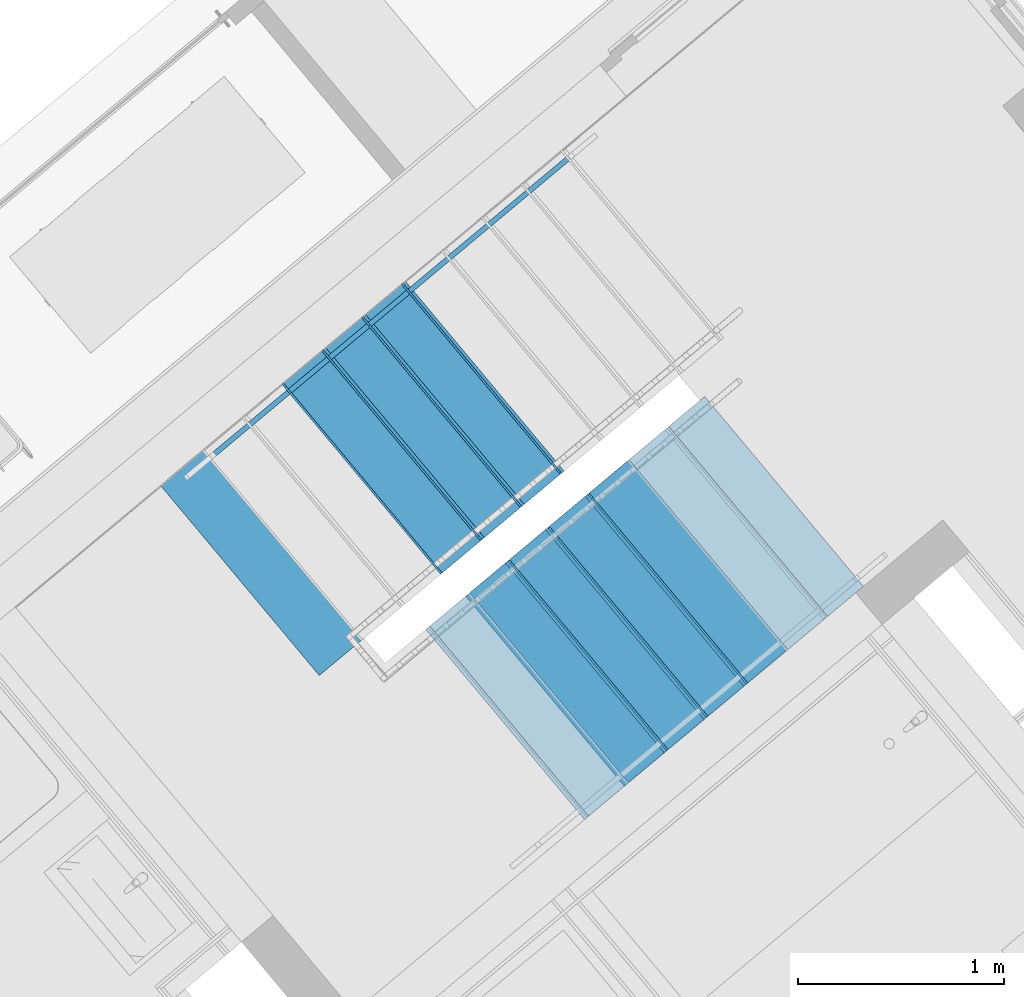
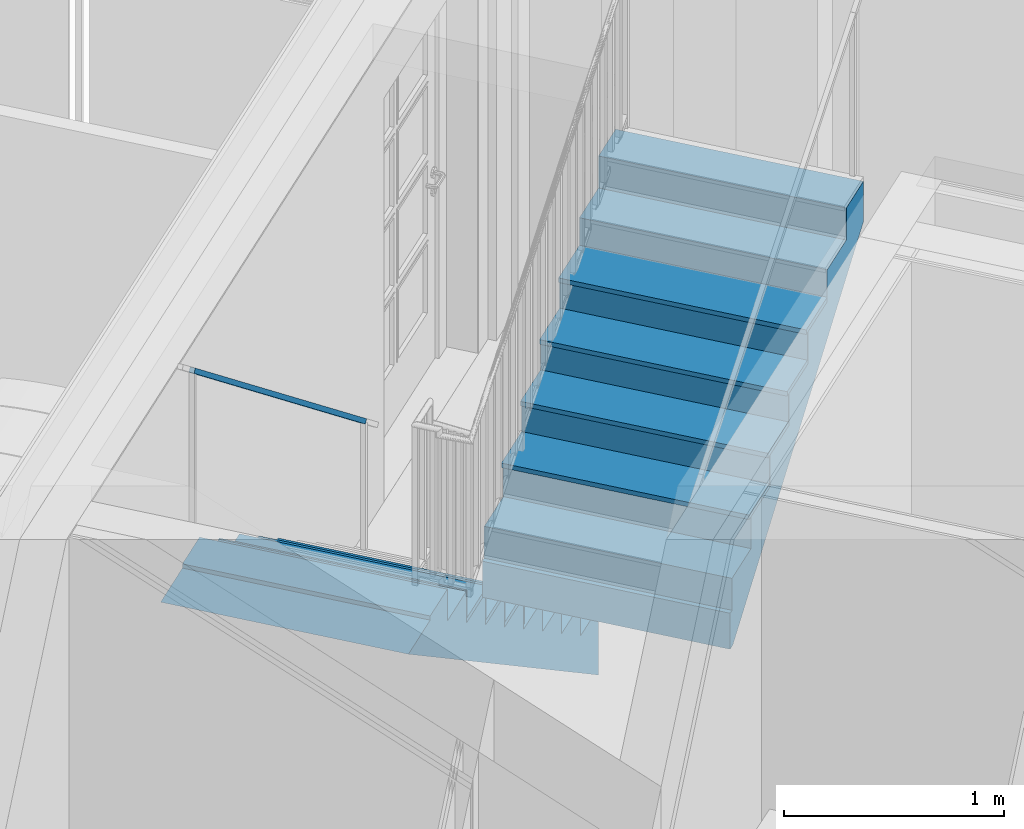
# One storey, part 33 of 67: 17 building element parts, 2 elements without a shape of their own.
"""IFC4 building model written with IfcOpenShell, lengths in metres."""

import ifcopenshell
import ifcopenshell.guid

model = None  # the IFC model being written
_history = None  # IfcOwnerHistory: only IFC2X3 demands one
_inside = {}  # id of a spatial element -> (the spatial element, [elements in it])
_under = {}  # id of a project, library or spatial element -> (it, [spatial elements below it])
_declared = {}  # id of a project -> (the project, [libraries it declares])
_typed = {}  # id of a type object -> (the type object, [elements of that type])
_made_of = {}  # id of a material, layer set ... -> (it, [elements and type objects made of it])


def new_model(schema):
    """Start an empty IFC model of exactly this schema.

    Asked for "IFC4X3", IfcOpenShell would pick the latest addendum, in which some entities
    have other attributes; the version numbers below select the first issue.
    IFC2X3 requires an IfcOwnerHistory on every rooted entity: one is made here for all.
    """
    global model, _history
    if schema == "IFC4X3":
        model = ifcopenshell.file(schema_version=(4, 3, 0, 0))
    else:
        model = ifcopenshell.file(schema=schema)
    _inside.clear()
    _under.clear()
    _declared.clear()
    _typed.clear()
    _made_of.clear()
    _history = None
    if model.schema == "IFC2X3":
        org = make("IfcOrganization", Name="unknown")
        user = make(
            "IfcPersonAndOrganization",
            ThePerson=make("IfcPerson", FamilyName="unknown"),
            TheOrganization=org,
        )
        app = make(
            "IfcApplication",
            ApplicationDeveloper=org,
            Version="unknown",
            ApplicationFullName="unknown",
            ApplicationIdentifier="unknown",
        )
        _history = make(
            "IfcOwnerHistory",
            OwningUser=user,
            OwningApplication=app,
            ChangeAction="ADDED",
            CreationDate=0,
        )
    return model


def make(cls, **values):
    """One entity of the class cls with the attributes given. An attribute that is None is left unset."""
    return model.create_entity(
        cls, **{name: value for name, value in values.items() if value is not None}
    )


def entity(cls, *values):
    """Any entity or typed value of the class cls, its attributes in the order of the schema. None: left unset."""
    e = model.create_entity(cls)
    for i, value in enumerate(values):
        if value is not None:
            e[i] = value
    return e


def rooted(cls, **values):
    """An entity with a GlobalId (a new one), such as an element, a storey or a relation."""
    return make(cls, GlobalId=ifcopenshell.guid.new(), OwnerHistory=_history, **values)


def si_unit(unit_type, name, prefix=None):
    """IfcSIUnit, for example si_unit("LENGTHUNIT", "METRE", prefix="MILLI")."""
    return make("IfcSIUnit", UnitType=unit_type, Prefix=prefix, Name=name)


def converted_unit(unit_type, name, factor, base, dimensions=None, offset=None):
    """IfcConversionBasedUnit, such as the inch: factor (a typed value) times the base unit."""
    return make(
        "IfcConversionBasedUnit"
        if offset is None
        else "IfcConversionBasedUnitWithOffset",
        ConversionOffset=offset,
        Dimensions=None
        if dimensions is None
        else entity("IfcDimensionalExponents", *dimensions),
        UnitType=unit_type,
        Name=name,
        ConversionFactor=make(
            "IfcMeasureWithUnit", ValueComponent=factor, UnitComponent=base
        ),
    )


def derived_unit(unit_type, elements):
    """IfcDerivedUnit: a product of units, each with its exponent."""
    return make(
        "IfcDerivedUnit",
        Elements=[
            make("IfcDerivedUnitElement", Unit=unit, Exponent=power)
            for unit, power in elements
        ],
        UnitType=unit_type,
    )


def assignment(units):
    """IfcUnitAssignment: the units of a project."""
    return None if units is None else make("IfcUnitAssignment", Units=units)


def point(xyz):
    """IfcCartesianPoint."""
    return None if xyz is None else make("IfcCartesianPoint", Coordinates=xyz)


def direction(xyz):
    """IfcDirection."""
    return None if xyz is None else make("IfcDirection", DirectionRatios=xyz)


def frame(location, z_axis=None, x_axis=None):
    """IfcAxis2Placement3D, a coordinate frame: its origin and axes. An axis left out is left unset."""
    return make(
        "IfcAxis2Placement3D",
        Location=point(location),
        Axis=direction(z_axis),
        RefDirection=direction(x_axis),
    )


def origin_with_axes():
    """The frame at (0, 0, 0) with the z axis (0, 0, 1) and the x axis (1, 0, 0) written out."""
    return frame((0.0, 0.0, 0.0), z_axis=(0.0, 0.0, 1.0), x_axis=(1.0, 0.0, 0.0))


def place(relative_to, where):
    """IfcLocalPlacement: puts the frame where relative to a parent placement (None: the world)."""
    return make(
        "IfcLocalPlacement", PlacementRelTo=relative_to, RelativePlacement=where
    )


def context(
    kind, dimensions, precision=None, world=None, true_north=None, identifier=None
):
    """IfcGeometricRepresentationContext, for example the 3D "Model" context."""
    return make(
        "IfcGeometricRepresentationContext",
        ContextIdentifier=identifier,
        ContextType=kind,
        CoordinateSpaceDimension=dimensions,
        Precision=precision,
        WorldCoordinateSystem=world,
        TrueNorth=true_north,
    )


def subcontext(parent, identifier, kind, view, scale=None):
    """IfcGeometricRepresentationSubContext, for example "Body" below "Model"."""
    return make(
        "IfcGeometricRepresentationSubContext",
        ContextIdentifier=identifier,
        ContextType=kind,
        ParentContext=parent,
        TargetScale=scale,
        TargetView=view,
    )


def project(units=None, contexts=None):
    """IfcProject with its units and contexts."""
    return rooted(
        "IfcProject",
        Name="project",
        RepresentationContexts=contexts,
        UnitsInContext=assignment(units),
    )


def spatial(cls, under=None, at=None, **own):
    """A site, building, storey or space (cls), placed at a placement, below another one or the project."""
    s = rooted(cls, ObjectPlacement=at, **own)
    if under is not None:
        _under.setdefault(under.id(), (under, []))[1].append(s)
    return s


def point_list(points):
    """IfcCartesianPointList2D or 3D."""
    cls = (
        "IfcCartesianPointList2D" if len(points[0]) == 2 else "IfcCartesianPointList3D"
    )
    return make(cls, CoordList=points)


def polygons(points, faces, closed=None, point_numbers=None):
    """IfcPolygonalFaceSet: a face is its outer loop, then its inner loops; points numbered from 1."""
    made = []
    for loops in faces:
        if len(loops) == 1:
            made.append(make("IfcIndexedPolygonalFace", CoordIndex=loops[0]))
        else:
            made.append(
                make(
                    "IfcIndexedPolygonalFaceWithVoids",
                    CoordIndex=loops[0],
                    InnerCoordIndices=loops[1:],
                )
            )
    return make(
        "IfcPolygonalFaceSet",
        Coordinates=point_list(points),
        Closed=closed,
        Faces=made,
        PnIndex=point_numbers,
    )


def shape(context_of_items, identifier, shape_type, items):
    """IfcShapeRepresentation: the items that make up one representation, for example the "Body"."""
    return make(
        "IfcShapeRepresentation",
        ContextOfItems=context_of_items,
        RepresentationIdentifier=identifier,
        RepresentationType=shape_type,
        Items=items,
    )


def material(Name=None, Category=None):
    """IfcMaterial."""
    return make("IfcMaterial", Name=Name, Category=Category)


def made_of(thing, what):
    """Note that an element or type object is made of a material, layer set ...; save() writes the relation."""
    if what is not None:
        _made_of.setdefault(what.id(), (what, []))[1].append(thing)
    return thing


def type_object(cls, material=None, **own):
    """A type object (cls), such as IfcWallType, which elements share."""
    return made_of(rooted(cls, **own), material)


def element(
    cls,
    number,
    at=None,
    inside=None,
    cuts=None,
    type_object=None,
    material=None,
    context=None,
    identifier="Body",
    shape_type=None,
    held_by="IfcProductDefinitionShape",
    body=None,
    shapes=None,
    **own,
):
    """One element of the class cls, such as IfcWall. Its Tag is "e" and its number.

    at: its placement. inside: the storey or other place that contains it. cuts: it is an
    opening in that element (IfcRelVoidsElement). A single representation is given by context,
    identifier, shape_type and body (its items); several are given by shapes. held_by: the class
    of the entity that holds the representations. save() writes the other relations.
    """
    e = rooted(cls, Tag="e%d" % number, ObjectPlacement=at, **own)
    if body is not None:
        shapes = [shape(context, identifier, shape_type, body)]
    if shapes is not None:
        e.Representation = make(held_by, Representations=shapes)
    if inside is not None:
        _inside.setdefault(inside.id(), (inside, []))[1].append(e)
    if cuts is not None:
        rooted(
            "IfcRelVoidsElement", RelatingBuildingElement=cuts, RelatedOpeningElement=e
        )
    if type_object is not None:
        _typed.setdefault(type_object.id(), (type_object, []))[1].append(e)
    return made_of(e, material)


def aggregate(whole, parts):
    """IfcRelAggregates: a whole, such as a stair, and the parts it consists of."""
    return rooted("IfcRelAggregates", RelatingObject=whole, RelatedObjects=parts)


def save(model, path):
    """Write the relations noted so far, then the file.

    IfcRelAggregates (storeys below a building ...), IfcRelContainedInSpatialStructure (elements
    in a storey), IfcRelDefinesByType, IfcRelAssociatesMaterial and IfcRelDeclares: one each for
    every whole, place, type object, material and project.
    """
    for whole, parts in _under.values():
        aggregate(whole, parts)
    for where, things in _inside.values():
        rooted(
            "IfcRelContainedInSpatialStructure",
            RelatedElements=things,
            RelatingStructure=where,
        )
    for kind, things in _typed.values():
        rooted("IfcRelDefinesByType", RelatedObjects=things, RelatingType=kind)
    for what, things in _made_of.values():
        rooted("IfcRelAssociatesMaterial", RelatedObjects=things, RelatingMaterial=what)
    for by, libraries in _declared.values():
        rooted("IfcRelDeclares", RelatingContext=by, RelatedDefinitions=libraries)
    model.write(path)


model = new_model("IFC4")

# Units and contexts
model_context = context("Model", 3, precision=1e-05, world=origin_with_axes(), true_north=direction((0.0, 1.0)))
body_context = subcontext(model_context, "Body", "Model", "MODEL_VIEW")
ifc_project = project(units=[si_unit("LENGTHUNIT", "METRE"), si_unit("AREAUNIT", "SQUARE_METRE"), si_unit("VOLUMEUNIT", "CUBIC_METRE"), converted_unit("PLANEANGLEUNIT", "DEGREE", entity("IfcPlaneAngleMeasure", 0.0174532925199), si_unit("PLANEANGLEUNIT", "RADIAN"), dimensions=[0, 0, 0, 0, 0, 0, 0]), converted_unit("TIMEUNIT", "Year", entity("IfcTimeMeasure", 31556926.0), si_unit("TIMEUNIT", "SECOND"), dimensions=[0, 0, 1, 0, 0, 0, 0]), si_unit("MASSUNIT", "GRAM", prefix="KILO"), si_unit("THERMODYNAMICTEMPERATUREUNIT", "DEGREE_CELSIUS"), si_unit("LUMINOUSINTENSITYUNIT", "LUMEN"), si_unit("ENERGYUNIT", "JOULE", prefix="MEGA"), derived_unit("THERMALCONDUCTANCEUNIT", [(si_unit("POWERUNIT", "WATT"), 1), (si_unit("LENGTHUNIT", "METRE"), -1), (si_unit("THERMODYNAMICTEMPERATUREUNIT", "KELVIN"), -1)]), derived_unit("SPECIFICHEATCAPACITYUNIT", [(si_unit("ENERGYUNIT", "JOULE"), 1), (si_unit("MASSUNIT", "GRAM", prefix="KILO"), -1), (si_unit("THERMODYNAMICTEMPERATUREUNIT", "KELVIN"), -1)]), derived_unit("MASSDENSITYUNIT", [(si_unit("MASSUNIT", "GRAM", prefix="KILO"), 1), (si_unit("VOLUMEUNIT", "CUBIC_METRE"), -1)])], contexts=[model_context])

# Site, building, storey
site_placement = place(None, frame((-0.00153261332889, -0.00661245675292, 0.0), z_axis=(0.0, 0.0, 1.0), x_axis=(1.0, 0.0, 0.0)))
site = spatial("IfcSite", under=ifc_project, at=site_placement, Name="Site", CompositionType="ELEMENT")
building_placement = place(site_placement, origin_with_axes())
building = spatial("IfcBuilding", under=site, at=building_placement, Name="Building", CompositionType="ELEMENT")
storey_placement = place(building_placement, frame((0.0, 0.0, -0.22), z_axis=(0.0, 0.0, 1.0), x_axis=(1.0, 0.0, 0.0)))
storey = spatial("IfcBuildingStorey", under=building, at=storey_placement, Name="EG", CompositionType="ELEMENT", Elevation=-0.22)

# Railing, building element part
railing_type = type_object("IfcRailingType", Name="Geländerart", PredefinedType="NOTDEFINED")
railing_placement = place(storey_placement, frame((-1.16795221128, 24.7564441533, 0.05), z_axis=(0.0, 0.0, 1.0), x_axis=(1.0, 0.0, 0.0)))
railing = element("IfcRailing", 1, at=railing_placement, inside=storey, type_object=railing_type, Name="Geländer - 001", PredefinedType="NOTDEFINED")
ifc_material_1 = material(Name="BEKLEIDUNG")
building_element_part_1_placement = place(railing_placement, origin_with_axes())
building_element_part_1 = element("IfcBuildingElementPart", 2, at=building_element_part_1_placement, material=ifc_material_1, Name="BEKLEIDUNG", PredefinedType="NOTDEFINED", context=body_context, shape_type="Tessellation", body=[
    polygons([(0.0240438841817, -0.0287774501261, 0.9), (0.0122290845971, -0.0386488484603, 0.880303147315), (-1.72609254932, -1.49103618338, 2.65089138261), (-1.71427774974, -1.48116478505, 2.67058823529), (0.0400731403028, -0.0479624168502, 0.9), (0.0282583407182, -0.0578338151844, 0.880303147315), (-1.7100632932, -1.5102211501, 2.65089138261), (-1.69824849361, -1.50034975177, 2.67058823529)], [[[1, 2, 3, 4]], [[1, 5, 6, 2]], [[2, 6, 7, 3]], [[4, 3, 7, 8]], [[5, 1, 4, 8]], [[6, 5, 8, 7]]], closed=True),
])
aggregate(railing, [building_element_part_1])

# Stair, building element parts
stair_type = type_object("IfcStairType", Name="Treppentyp", PredefinedType="NOTDEFINED")
stair_placement = place(storey_placement, frame((-0.972083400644, 24.9200947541, 0.05), z_axis=(0.0, 0.0, 1.0), x_axis=(1.0, 0.0, 0.0)))
stair = element("IfcStair", 3, at=stair_placement, inside=storey, type_object=stair_type, Name="Treppe - 001", PredefinedType="NOTDEFINED")
ifc_material_2 = material(Name="Stahlbeton Decke")
building_element_part_2_placement = place(stair_placement, origin_with_axes())
building_element_part_2 = element("IfcBuildingElementPart", 4, at=building_element_part_2_placement, material=ifc_material_2, Name="Stahlbeton Decke", PredefinedType="NOTDEFINED", context=body_context, shape_type="Tessellation", body=[
    polygons([(-1.93419043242, -1.61603796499, 1.54558823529), (-1.16478618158, -2.53691636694, 1.54558823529), (-1.16478615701, -2.53691634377, 1.56852941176), (-1.93419045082, -1.61603794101, 1.56852941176), (-2.15516351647, -1.80066346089, 1.54558823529), (-1.38575924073, -2.72154184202, 1.54558823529), (-1.16478618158, -2.53691636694, 1.34302096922), (-1.10040387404, -2.48312422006, 1.28400133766), (-1.03602159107, -2.42933209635, 1.22498172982), (-0.971639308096, -2.37553997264, 1.16596212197), (-0.907257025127, -2.32174784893, 1.10694251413), (-0.842874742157, -2.26795572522, 1.04792290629), (-0.778492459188, -2.21416360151, 0.988903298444), (-0.714110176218, -2.1603714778, 0.929883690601), (-0.649727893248, -2.1065793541, 0.870864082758), (-0.585345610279, -2.05278723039, 0.811844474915), (-0.520963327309, -1.99899510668, 0.752824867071), (-0.45658104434, -1.94520298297, 0.693805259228), (-0.39219876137, -1.89141085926, 0.634785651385), (-0.3278164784, -1.83761873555, 0.575766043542), (-0.263434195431, -1.78382661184, 0.516746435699), (-0.199051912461, -1.73003448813, 0.457726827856), (-0.134669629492, -1.67624236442, 0.398707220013), (-0.0702873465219, -1.62245024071, 0.339687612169), (-0.00590506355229, -1.568658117, 0.280668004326), (0.0584772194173, -1.51486599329, 0.221648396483), (0.122859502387, -1.46107386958, 0.16262878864), (0.187241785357, -1.40728174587, 0.103609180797), (0.251624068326, -1.35348962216, 0.0445895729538), (0.316006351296, -1.29969749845, -0.0144300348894), (0.380388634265, -1.24590537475, -0.0734496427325), (0.444770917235, -1.19211325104, -0.132469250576), (0.509153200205, -1.13832112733, -0.191488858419), (0.54283953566, -1.11017581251, -0.222369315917), (0.54283953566, -1.11017581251, 0.152058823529), (0.361126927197, -1.26199874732, 0.152058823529), (0.361126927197, -1.26199874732, 0.329117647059), (0.167980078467, -1.42337511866, 0.329117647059), (0.167980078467, -1.42337511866, 0.506176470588), (-0.0251667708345, -1.58475148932, 0.506176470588), (-0.0251667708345, -1.58475148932, 0.683235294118), (-0.218313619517, -1.74612786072, 0.683235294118), (-0.218313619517, -1.74612786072, 0.860294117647), (-0.411460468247, -1.90750423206, 0.860294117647), (-0.411460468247, -1.90750423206, 1.03735294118), (-0.604607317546, -2.06888060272, 1.03735294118), (-0.604607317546, -2.06888060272, 1.21441176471), (-0.797754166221, -2.23025697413, 1.21441176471), (-0.797754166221, -2.23025697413, 1.39147058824), (-0.990901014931, -2.3916333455, 1.39147058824), (-0.990901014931, -2.3916333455, 1.56852941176), (-1.7603053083, -1.47075494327, 1.56852941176), (-1.7603053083, -1.47075494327, 1.39147058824), (-1.56715845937, -1.30937857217, 1.39147058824), (-1.56715845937, -1.30937857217, 1.21441176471), (-1.37401161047, -1.14800220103, 1.21441176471), (-1.37401161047, -1.14800220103, 1.03735294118), (-1.18086476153, -0.986625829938, 1.03735294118), (-1.18086476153, -0.986625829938, 0.860294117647), (-0.987717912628, -0.825249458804, 0.860294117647), (-0.987717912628, -0.825249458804, 0.683235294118), (-0.794571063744, -0.663873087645, 0.683235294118), (-0.794571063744, -0.663873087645, 0.506176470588), (-0.601424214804, -0.502496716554, 0.506176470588), (-0.601424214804, -0.502496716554, 0.329117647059), (-0.408277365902, -0.341120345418, 0.329117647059), (-0.408277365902, -0.341120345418, 0.152058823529), (-0.22656475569, -0.189297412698, 0.152058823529), (-0.22656475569, -0.189297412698, -0.222369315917), (-0.260251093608, -0.217442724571, -0.191488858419), (-0.324633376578, -0.27123484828, -0.132469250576), (-0.389015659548, -0.32502697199, -0.0734496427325), (-0.453397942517, -0.378819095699, -0.0144300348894), (-0.517780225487, -0.432611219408, 0.0445895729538), (-0.582162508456, -0.486403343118, 0.103609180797), (-0.646544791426, -0.540195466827, 0.16262878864), (-0.710927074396, -0.593987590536, 0.221648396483), (-0.775309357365, -0.647779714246, 0.280668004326), (-0.839691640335, -0.701571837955, 0.339687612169), (-0.904073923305, -0.755363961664, 0.398707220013), (-0.968456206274, -0.809156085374, 0.457726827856), (-1.03283848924, -0.862948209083, 0.516746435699), (-1.09722077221, -0.916740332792, 0.575766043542), (-1.16160305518, -0.970532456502, 0.634785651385), (-1.22598533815, -1.02432458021, 0.693805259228), (-1.29036762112, -1.07811670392, 0.752824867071), (-1.35474990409, -1.13190882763, 0.811844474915), (-1.41913218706, -1.18570095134, 0.870864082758), (-1.48351447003, -1.23949307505, 0.929883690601), (-1.547896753, -1.29328519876, 0.988903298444), (-1.61227903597, -1.34707732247, 1.04792290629), (-1.67666131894, -1.40086944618, 1.10694251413), (-1.74104360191, -1.45466156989, 1.16596212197), (-1.80542588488, -1.5084536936, 1.22498172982), (-1.86980816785, -1.5622458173, 1.28400133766), (-1.93419043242, -1.61603796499, 1.34302094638)], [[[1, 2, 3, 4]], [[2, 1, 5, 6]], [[7, 8, 9, 10, 11, 12, 13, 14, 15, 16, 17, 18, 19, 20, 21, 22, 23, 24, 25, 26, 27, 28, 29, 30, 31, 32, 33, 34, 35, 36, 37, 38, 39, 40, 41, 42, 43, 44, 45, 46, 47, 48, 49, 50, 51, 3, 2, 6]], [[52, 4, 3, 51]], [[1, 4, 52, 53, 54, 55, 56, 57, 58, 59, 60, 61, 62, 63, 64, 65, 66, 67, 68, 69, 70, 71, 72, 73, 74, 75, 76, 77, 78, 79, 80, 81, 82, 83, 84, 85, 86, 87, 88, 89, 90, 91, 92, 93, 94, 95, 96, 5]], [[96, 95, 8, 7, 6, 5]], [[95, 94, 9, 8]], [[94, 93, 10, 9]], [[93, 92, 11, 10]], [[92, 91, 12, 11]], [[91, 90, 13, 12]], [[90, 89, 14, 13]], [[89, 88, 15, 14]], [[88, 87, 16, 15]], [[87, 86, 17, 16]], [[86, 85, 18, 17]], [[85, 84, 19, 18]], [[84, 83, 20, 19]], [[83, 82, 21, 20]], [[82, 81, 22, 21]], [[81, 80, 23, 22]], [[80, 79, 24, 23]], [[79, 78, 25, 24]], [[78, 77, 26, 25]], [[77, 76, 27, 26]], [[76, 75, 28, 27]], [[75, 74, 29, 28]], [[74, 73, 30, 29]], [[73, 72, 31, 30]], [[72, 71, 32, 31]], [[71, 70, 33, 32]], [[70, 69, 34, 33]], [[69, 68, 35, 34]], [[36, 35, 68, 67]], [[37, 36, 67, 66]], [[65, 38, 37, 66]], [[39, 38, 65, 64]], [[63, 40, 39, 64]], [[41, 40, 63, 62]], [[61, 42, 41, 62]], [[43, 42, 61, 60]], [[59, 44, 43, 60]], [[45, 44, 59, 58]], [[57, 46, 45, 58]], [[47, 46, 57, 56]], [[55, 48, 47, 56]], [[49, 48, 55, 54]], [[53, 50, 49, 54]], [[51, 50, 53, 52]]], closed=True),
])
building_element_part_3_placement = place(stair_placement, origin_with_axes())
building_element_part_3 = element("IfcBuildingElementPart", 5, at=building_element_part_3_placement, material=ifc_material_2, Name="Stahlbeton Decke", PredefinedType="NOTDEFINED", context=body_context, shape_type="Tessellation", body=[
    polygons([(1.12362509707, -2.39695883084, 2.64145231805), (1.18800462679, -2.34316341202, 2.70047192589), (1.25238415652, -2.2893679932, 2.75949153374), (1.25238415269, -2.28936798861, 2.985), (1.0785064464, -2.4346598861, 2.985), (1.0785064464, -2.4346598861, 2.80794117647), (0.885367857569, -2.59604614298, 2.80794117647), (0.885367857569, -2.59604614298, 2.63088235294), (0.692229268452, -2.75743239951, 2.63088235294), (0.692229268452, -2.75743239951, 2.45382352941), (0.499090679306, -2.918818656, 2.45382352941), (0.499090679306, -2.918818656, 2.27676470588), (0.305952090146, -3.08020491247, 2.27676470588), (0.305952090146, -3.08020491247, 2.09970588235), (0.112813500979, -3.24159116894, 2.09970588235), (0.112813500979, -3.24159116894, 1.92264705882), (-0.0803250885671, -3.40297742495, 1.92264705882), (-0.0803250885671, -3.40297742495, 1.74558823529), (-0.0995859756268, -3.41907178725, 1.74558823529), (-0.0995859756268, -3.41907178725, 1.54558823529), (-0.0717609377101, -3.39582123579, 1.54558823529), (-0.0673962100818, -3.39217407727, 1.54958957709), (-0.0352064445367, -3.36527636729, 1.57909938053), (-0.0030166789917, -3.33837865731, 1.60860918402), (0.0291730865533, -3.31148094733, 1.6381189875), (0.0613628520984, -3.28458323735, 1.66762879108), (0.0935526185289, -3.25768552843, 1.69713859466), (0.125742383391, -3.23078781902, 1.72664839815), (0.157932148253, -3.20389010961, 1.75615820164), (0.190121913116, -3.1769924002, 1.78566800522), (0.222311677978, -3.15009469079, 1.8151778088), (0.25450144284, -3.12319698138, 1.8446876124), (0.286691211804, -3.09629927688, 1.874197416), (0.351070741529, -3.04250385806, 1.93321702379), (0.415450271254, -2.98870843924, 1.99223663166), (0.479829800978, -2.93491302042, 2.05125623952), (0.544209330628, -2.88111760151, 2.11027584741), (0.608588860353, -2.82732218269, 2.16929545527), (0.672968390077, -2.77352676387, 2.22831506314), (0.73734791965, -2.71973134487, 2.28733467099), (0.801727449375, -2.66593592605, 2.34635427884), (0.8661069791, -2.61214050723, 2.40537388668), (0.930486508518, -2.55834508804, 2.46439349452), (0.994866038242, -2.50454966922, 2.52341310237), (1.05924556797, -2.4507542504, 2.58243271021), (0.418553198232, -1.42232438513, 2.70047192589), (0.354173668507, -1.47611980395, 2.64145231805), (0.482932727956, -1.36852896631, 2.75949153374), (0.482932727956, -1.36852896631, 2.985), (0.309055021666, -1.51382086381, 2.985), (0.309055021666, -1.51382086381, 2.80794117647), (0.115916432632, -1.67520712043, 2.80794117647), (0.115916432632, -1.67520712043, 2.63088235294), (-0.0772221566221, -1.8365933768, 2.63088235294), (-0.0772221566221, -1.8365933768, 2.45382352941), (-0.270360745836, -1.99797963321, 2.45382352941), (-0.270360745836, -1.99797963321, 2.27676470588), (-0.463499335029, -2.15936588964, 2.27676470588), (-0.463499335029, -2.15936588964, 2.09970588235), (-0.656637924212, -2.32075214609, 2.09970588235), (-0.656637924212, -2.32075214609, 1.92264705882), (-0.849776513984, -2.48213840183, 1.92264705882), (-0.849776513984, -2.48213840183, 1.74558823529), (-0.86903741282, -2.49823277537, 1.74558823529), (-0.869037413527, -2.49823277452, 1.54558823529), (-0.841212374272, -2.47498222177, 1.54558823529), (-0.815129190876, -2.50619720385, 1.54558823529), (-0.482569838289, -2.90418674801, 1.54558823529), (-0.430403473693, -2.96661670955, 1.54558823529), (-0.0978441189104, -3.36460625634, 1.54558823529), (-0.227569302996, -3.13506661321, 1.57909938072), (-0.163189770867, -3.08127119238, 1.63811898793), (-0.0988102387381, -3.02747577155, 1.69713859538), (-0.0344307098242, -2.97368035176, 1.75615820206), (0.0299488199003, -2.91988493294, 1.81517780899), (0.0943283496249, -2.86608951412, 1.87419741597), (-0.418380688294, -2.12166482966, 1.93321702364), (-0.290397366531, -2.40566999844, 1.8741974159), (-0.482760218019, -2.17546024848, 1.87419741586), (-0.35400115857, -2.06786941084, 1.99223663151), (-0.289621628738, -2.01407399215, 2.0512562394), (-0.225242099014, -1.96027857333, 2.11027584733), (-0.160862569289, -1.90648315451, 2.16929545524), (-0.0964830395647, -1.85268773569, 2.22831506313), (-0.0321035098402, -1.79889231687, 2.28733467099), (0.0322760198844, -1.74509689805, 2.34635427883), (0.0966555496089, -1.69130147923, 2.40537388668), (0.161035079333, -1.63750606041, 2.46439349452), (0.225414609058, -1.58371064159, 2.52341310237), (0.289794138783, -1.52991522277, 2.58243271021), (-0.804657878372, -2.44443735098, 1.57909938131), (-0.836847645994, -2.4713350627, 1.54958957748), (-0.514949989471, -2.20235795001, 1.84468761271), (-0.547139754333, -2.22925565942, 1.81517780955), (-0.579329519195, -2.25615336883, 1.78566800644), (-0.611519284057, -2.28305107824, 1.75615820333), (-0.64370904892, -2.30994878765, 1.72664840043), (-0.675898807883, -2.33684650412, 1.69713859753), (-0.708088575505, -2.36374421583, 1.66762879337), (-0.740278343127, -2.39064192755, 1.6381189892), (-0.77246811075, -2.41753963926, 1.60860918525), (-0.612295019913, -2.67464710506, 1.57909938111), (-0.452121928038, -2.93175456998, 1.54958957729), (-0.387742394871, -2.87795914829, 1.60860918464), (-0.323362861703, -2.82416372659, 1.66762879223), (-0.258983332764, -2.77036830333, 1.72664839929), (-0.19460380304, -2.71657288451, 1.78566800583), (-0.130224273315, -2.66277746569, 1.84468761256), (-0.354776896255, -2.45946541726, 1.81517780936), (-0.41915642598, -2.51326083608, 1.75615820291), (-0.483535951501, -2.56705625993, 1.69713859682), (-0.547915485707, -2.62085168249, 1.63811898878)], [[[1, 2, 3, 4, 5, 6, 7, 8, 9, 10, 11, 12, 13, 14, 15, 16, 17, 18, 19, 20, 21, 22, 23, 24, 25, 26, 27, 28, 29, 30, 31, 32, 33, 34, 35, 36, 37, 38, 39, 40, 41, 42, 43, 44, 45]], [[46, 2, 1, 47]], [[48, 3, 2, 46]], [[4, 3, 48, 49]], [[4, 49, 50, 5]], [[50, 51, 6, 5]], [[52, 7, 6, 51]], [[52, 53, 8, 7]], [[54, 9, 8, 53]], [[54, 55, 10, 9]], [[56, 11, 10, 55]], [[56, 57, 12, 11]], [[58, 13, 12, 57]], [[58, 59, 14, 13]], [[60, 15, 14, 59]], [[60, 61, 16, 15]], [[62, 17, 16, 61]], [[62, 63, 18, 17]], [[63, 64, 19, 18]], [[65, 20, 19, 64]], [[21, 20, 65, 66, 67, 68, 69, 70]], [[70, 22, 21]], [[71, 23, 22]], [[71, 24, 23]], [[72, 25, 24]], [[72, 26, 25]], [[73, 27, 26]], [[73, 28, 27]], [[74, 29, 28]], [[74, 30, 29]], [[75, 31, 30]], [[75, 32, 31]], [[76, 33, 32]], [[77, 34, 33, 76, 78, 79]], [[80, 35, 34, 77]], [[81, 36, 35, 80]], [[82, 37, 36, 81]], [[83, 38, 37, 82]], [[84, 39, 38, 83]], [[85, 40, 39, 84]], [[86, 41, 40, 85]], [[87, 42, 41, 86]], [[88, 43, 42, 87]], [[89, 44, 43, 88]], [[90, 45, 44, 89]], [[47, 1, 45, 90]], [[91, 92, 66, 65, 64, 63, 62, 61, 60, 59, 58, 57, 56, 55, 54, 53, 52, 51, 50, 49, 48, 46, 47, 90, 89, 88, 87, 86, 85, 84, 83, 82, 81, 80, 77, 79, 93, 94, 95, 96, 97, 98, 99, 100, 101]], [[67, 66, 92]], [[67, 92, 102, 103, 68]], [[69, 68, 103]], [[103, 71, 22, 70, 69]], [[104, 72, 24, 71]], [[105, 73, 26, 72]], [[106, 74, 28, 73]], [[74, 107, 75, 30]], [[108, 76, 32, 75]], [[108, 78, 76]], [[78, 93, 79]], [[102, 92, 91]], [[109, 94, 93]], [[109, 95, 94]], [[110, 96, 95]], [[110, 97, 96]], [[111, 98, 97]], [[111, 99, 98]], [[112, 100, 99]], [[112, 101, 100]], [[102, 91, 101]], [[103, 102, 71]], [[72, 104, 112]], [[71, 102, 104]], [[73, 105, 111]], [[112, 105, 72]], [[74, 106, 110]], [[73, 111, 106]], [[74, 110, 107]], [[75, 107, 109]], [[109, 108, 75]], [[109, 93, 78, 108]], [[95, 109, 107, 110]], [[111, 97, 110, 106]], [[99, 111, 105, 112]], [[102, 101, 112, 104]]], closed=True),
])
building_element_part_4_placement = place(stair_placement, origin_with_axes())
building_element_part_4 = element("IfcBuildingElementPart", 6, at=building_element_part_4_placement, material=ifc_material_1, Name="BEKLEIDUNG", PredefinedType="NOTDEFINED", context=body_context, shape_type="Tessellation", body=[
    polygons([(-0.979967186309, -0.818773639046, 0.860294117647), (-0.987641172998, -0.825185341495, 0.860294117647), (-0.218236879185, -1.74606374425, 0.860294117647), (-0.210562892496, -1.7396520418, 0.860294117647), (-0.979967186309, -0.818773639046, 0.708235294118), (-0.987641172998, -0.825185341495, 0.708235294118), (-0.218236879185, -1.74606374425, 0.708235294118), (-0.210562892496, -1.7396520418, 0.708235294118)], [[[1, 2, 3, 4]], [[1, 5, 6, 2]], [[2, 6, 7, 3]], [[4, 3, 7, 8]], [[5, 1, 4, 8]], [[6, 5, 8, 7]]], closed=True),
])
building_element_part_5_placement = place(stair_placement, origin_with_axes())
building_element_part_5 = element("IfcBuildingElementPart", 7, at=building_element_part_5_placement, material=ifc_material_1, Name="BEKLEIDUNG", PredefinedType="NOTDEFINED", context=body_context, shape_type="Tessellation", body=[
    polygons([(-1.17311403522, -0.980150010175, 1.03735294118), (-1.18078802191, -0.986561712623, 1.03735294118), (-0.411383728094, -1.90744011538, 1.03735294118), (-0.403709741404, -1.90102841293, 1.03735294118), (-1.17311403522, -0.980150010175, 0.885294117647), (-1.18078802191, -0.986561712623, 0.885294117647), (-0.411383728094, -1.90744011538, 0.885294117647), (-0.403709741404, -1.90102841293, 0.885294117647)], [[[1, 2, 3, 4]], [[1, 5, 6, 2]], [[2, 6, 7, 3]], [[4, 3, 7, 8]], [[5, 1, 4, 8]], [[6, 5, 8, 7]]], closed=True),
])
building_element_part_6_placement = place(stair_placement, origin_with_axes())
building_element_part_6 = element("IfcBuildingElementPart", 8, at=building_element_part_6_placement, material=ifc_material_1, Name="BEKLEIDUNG", PredefinedType="NOTDEFINED", context=body_context, shape_type="Tessellation", body=[
    polygons([(-1.36626088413, -1.1415263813, 1.21441176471), (-1.37393487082, -1.14793808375, 1.21441176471), (-0.604530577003, -2.06881648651, 1.21441176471), (-0.596856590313, -2.06240478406, 1.21441176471), (-1.36626088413, -1.1415263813, 1.06235294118), (-1.37393487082, -1.14793808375, 1.06235294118), (-0.604530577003, -2.06881648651, 1.06235294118), (-0.596856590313, -2.06240478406, 1.06235294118)], [[[1, 2, 3, 4]], [[1, 5, 6, 2]], [[2, 6, 7, 3]], [[4, 3, 7, 8]], [[5, 1, 4, 8]], [[6, 5, 8, 7]]], closed=True),
])
building_element_part_7_placement = place(stair_placement, origin_with_axes())
building_element_part_7 = element("IfcBuildingElementPart", 9, at=building_element_part_7_placement, material=ifc_material_1, Name="BEKLEIDUNG", PredefinedType="NOTDEFINED", context=body_context, shape_type="Tessellation", body=[
    polygons([(-1.55940773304, -1.30290275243, 1.39147058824), (-1.56708171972, -1.30931445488, 1.39147058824), (-0.797677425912, -2.23019285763, 1.39147058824), (-0.790003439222, -2.22378115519, 1.39147058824), (-1.55940773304, -1.30290275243, 1.23941176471), (-1.56708171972, -1.30931445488, 1.23941176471), (-0.797677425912, -2.23019285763, 1.23941176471), (-0.790003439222, -2.22378115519, 1.23941176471)], [[[1, 2, 3, 4]], [[1, 5, 6, 2]], [[2, 6, 7, 3]], [[4, 3, 7, 8]], [[5, 1, 4, 8]], [[6, 5, 8, 7]]], closed=True),
])
building_element_part_8_placement = place(stair_placement, origin_with_axes())
building_element_part_8 = element("IfcBuildingElementPart", 10, at=building_element_part_8_placement, material=ifc_material_1, Name="BEKLEIDUNG", PredefinedType="NOTDEFINED", context=body_context, shape_type="Tessellation", body=[
    polygons([(0.298201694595, -3.0866811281, 2.27676470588), (0.305875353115, -3.08026903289, 2.27676470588), (-0.463576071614, -2.1594300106, 2.27676470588), (-0.471249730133, -2.1658421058, 2.27676470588), (0.298201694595, -3.0866811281, 2.12470588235), (0.305875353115, -3.08026903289, 2.12470588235), (-0.463576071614, -2.1594300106, 2.12470588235), (-0.471249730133, -2.1658421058, 2.12470588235)], [[[1, 2, 3, 4]], [[1, 5, 6, 2]], [[2, 6, 7, 3]], [[4, 3, 7, 8]], [[5, 1, 4, 8]], [[6, 5, 8, 7]]], closed=True),
])
building_element_part_9_placement = place(stair_placement, origin_with_axes())
building_element_part_9 = element("IfcBuildingElementPart", 11, at=building_element_part_9_placement, material=ifc_material_1, Name="BEKLEIDUNG", PredefinedType="NOTDEFINED", context=body_context, shape_type="Tessellation", body=[
    polygons([(0.491340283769, -2.92529487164, 2.45382352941), (0.499013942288, -2.91888277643, 2.45382352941), (-0.270437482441, -1.99804375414, 2.45382352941), (-0.27811114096, -2.00445584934, 2.45382352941), (0.491340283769, -2.92529487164, 2.30176470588), (0.499013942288, -2.91888277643, 2.30176470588), (-0.270437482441, -1.99804375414, 2.30176470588), (-0.27811114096, -2.00445584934, 2.30176470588)], [[[1, 2, 3, 4]], [[1, 5, 6, 2]], [[2, 6, 7, 3]], [[4, 3, 7, 8]], [[5, 1, 4, 8]], [[6, 5, 8, 7]]], closed=True),
])
building_element_part_10_placement = place(stair_placement, origin_with_axes())
building_element_part_10 = element("IfcBuildingElementPart", 12, at=building_element_part_10_placement, material=ifc_material_1, Name="BEKLEIDUNG", PredefinedType="NOTDEFINED", context=body_context, shape_type="Tessellation", body=[
    polygons([(0.684478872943, -2.76390861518, 2.63088235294), (0.692152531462, -2.75749651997, 2.63088235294), (-0.0772988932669, -1.83665749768, 2.63088235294), (-0.084972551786, -1.84306959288, 2.63088235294), (0.684478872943, -2.76390861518, 2.47882352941), (0.692152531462, -2.75749651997, 2.47882352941), (-0.0772988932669, -1.83665749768, 2.47882352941), (-0.084972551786, -1.84306959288, 2.47882352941)], [[[1, 2, 3, 4]], [[1, 5, 6, 2]], [[2, 6, 7, 3]], [[4, 3, 7, 8]], [[5, 1, 4, 8]], [[6, 5, 8, 7]]], closed=True),
])
building_element_part_11_placement = place(stair_placement, origin_with_axes())
building_element_part_11 = element("IfcBuildingElementPart", 13, at=building_element_part_11_placement, material=ifc_material_1, Name="BEKLEIDUNG", PredefinedType="NOTDEFINED", context=body_context, shape_type="Tessellation", body=[
    polygons([(-0.199051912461, -1.73003448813, 0.860294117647), (-0.968456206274, -0.809156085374, 0.860294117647), (-0.968456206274, -0.809156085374, 0.885294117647), (-0.199051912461, -1.73003448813, 0.885294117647), (-0.411383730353, -1.90744011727, 0.860294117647), (-1.18078802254, -0.986561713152, 0.860294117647), (-1.18078802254, -0.986561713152, 0.885294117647), (-0.411383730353, -1.90744011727, 0.885294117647)], [[[1, 2, 3, 4]], [[1, 5, 6, 2]], [[2, 6, 7, 3]], [[4, 3, 7, 8]], [[5, 1, 4, 8]], [[6, 5, 8, 7]]], closed=True),
])
building_element_part_12_placement = place(stair_placement, origin_with_axes())
building_element_part_12 = element("IfcBuildingElementPart", 14, at=building_element_part_12_placement, material=ifc_material_1, Name="BEKLEIDUNG", PredefinedType="NOTDEFINED", context=body_context, shape_type="Tessellation", body=[
    polygons([(-0.39219876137, -1.89141085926, 1.03735294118), (-1.16160305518, -0.970532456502, 1.03735294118), (-1.16160305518, -0.970532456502, 1.06235294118), (-0.39219876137, -1.89141085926, 1.06235294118), (-0.604530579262, -2.06881648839, 1.03735294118), (-1.37393487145, -1.14793808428, 1.03735294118), (-1.37393487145, -1.14793808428, 1.06235294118), (-0.604530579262, -2.06881648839, 1.06235294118)], [[[1, 2, 3, 4]], [[1, 5, 6, 2]], [[2, 6, 7, 3]], [[4, 3, 7, 8]], [[5, 1, 4, 8]], [[6, 5, 8, 7]]], closed=True),
])
building_element_part_13_placement = place(stair_placement, origin_with_axes())
building_element_part_13 = element("IfcBuildingElementPart", 15, at=building_element_part_13_placement, material=ifc_material_1, Name="BEKLEIDUNG", PredefinedType="NOTDEFINED", context=body_context, shape_type="Tessellation", body=[
    polygons([(-0.585345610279, -2.05278723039, 1.21441176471), (-1.35474990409, -1.13190882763, 1.21441176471), (-1.35474990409, -1.13190882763, 1.23941176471), (-0.585345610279, -2.05278723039, 1.23941176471), (-0.797677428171, -2.23019285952, 1.21441176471), (-1.56708172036, -1.30931445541, 1.21441176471), (-1.56708172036, -1.30931445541, 1.23941176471), (-0.797677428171, -2.23019285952, 1.23941176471)], [[[1, 2, 3, 4]], [[1, 5, 6, 2]], [[2, 6, 7, 3]], [[4, 3, 7, 8]], [[5, 1, 4, 8]], [[6, 5, 8, 7]]], closed=True),
])
building_element_part_14_placement = place(stair_placement, origin_with_axes())
building_element_part_14 = element("IfcBuildingElementPart", 16, at=building_element_part_14_placement, material=ifc_material_1, Name="BEKLEIDUNG", PredefinedType="NOTDEFINED", context=body_context, shape_type="Tessellation", body=[
    polygons([(-0.675898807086, -2.33684650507, 2.09970588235), (0.093552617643, -3.25768552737, 2.09970588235), (0.093552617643, -3.25768552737, 2.12470588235), (-0.675898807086, -2.33684650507, 2.12470588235), (-0.463576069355, -2.15943000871, 2.09970588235), (0.305875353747, -3.08026903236, 2.09970588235), (0.305875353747, -3.08026903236, 2.12470588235), (-0.463576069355, -2.15943000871, 2.12470588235)], [[[1, 2, 3, 4]], [[1, 5, 6, 2]], [[2, 6, 7, 3]], [[4, 3, 7, 8]], [[5, 1, 4, 8]], [[6, 5, 8, 7]]], closed=True),
])
building_element_part_15_placement = place(stair_placement, origin_with_axes())
building_element_part_15 = element("IfcBuildingElementPart", 17, at=building_element_part_15_placement, material=ifc_material_1, Name="BEKLEIDUNG", PredefinedType="NOTDEFINED", context=body_context, shape_type="Tessellation", body=[
    polygons([(-0.482760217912, -2.17546024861, 2.27676470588), (0.286691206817, -3.09629927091, 2.27676470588), (0.286691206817, -3.09629927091, 2.30176470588), (-0.482760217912, -2.17546024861, 2.30176470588), (-0.270437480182, -1.99804375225, 2.27676470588), (0.499013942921, -2.9188827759, 2.27676470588), (0.499013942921, -2.9188827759, 2.30176470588), (-0.270437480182, -1.99804375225, 2.30176470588)], [[[1, 2, 3, 4]], [[1, 5, 6, 2]], [[2, 6, 7, 3]], [[4, 3, 7, 8]], [[5, 1, 4, 8]], [[6, 5, 8, 7]]], closed=True),
])
building_element_part_16_placement = place(stair_placement, origin_with_axes())
building_element_part_16 = element("IfcBuildingElementPart", 18, at=building_element_part_16_placement, material=ifc_material_1, Name="BEKLEIDUNG", PredefinedType="NOTDEFINED", context=body_context, shape_type="Tessellation", body=[
    polygons([(-0.289621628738, -2.01407399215, 2.45382352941), (0.47982979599, -2.93491301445, 2.45382352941), (0.47982979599, -2.93491301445, 2.47882352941), (-0.289621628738, -2.01407399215, 2.47882352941), (-0.0772988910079, -1.83665749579, 2.45382352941), (0.692152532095, -2.75749651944, 2.45382352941), (0.692152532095, -2.75749651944, 2.47882352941), (-0.0772988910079, -1.83665749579, 2.47882352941)], [[[1, 2, 3, 4]], [[1, 5, 6, 2]], [[2, 6, 7, 3]], [[4, 3, 7, 8]], [[5, 1, 4, 8]], [[6, 5, 8, 7]]], closed=True),
])
building_element_part_17_placement = place(stair_placement, origin_with_axes())
building_element_part_17 = element("IfcBuildingElementPart", 19, at=building_element_part_17_placement, material=ifc_material_1, Name="BEKLEIDUNG", PredefinedType="NOTDEFINED", context=body_context, shape_type="Tessellation", body=[
    polygons([(-0.0964830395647, -1.85268773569, 2.63088235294), (0.672968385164, -2.77352675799, 2.63088235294), (0.672968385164, -2.77352675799, 2.65588235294), (-0.0964830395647, -1.85268773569, 2.65588235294), (0.115839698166, -1.67527123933, 2.63088235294), (0.885291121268, -2.59611026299, 2.63088235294), (0.885291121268, -2.59611026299, 2.65588235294), (0.115839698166, -1.67527123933, 2.65588235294)], [[[1, 2, 3, 4]], [[1, 5, 6, 2]], [[2, 6, 7, 3]], [[4, 3, 7, 8]], [[5, 1, 4, 8]], [[6, 5, 8, 7]]], closed=True),
])
aggregate(stair, [building_element_part_2, building_element_part_3, building_element_part_4, building_element_part_5, building_element_part_6, building_element_part_7, building_element_part_8, building_element_part_9, building_element_part_10, building_element_part_11, building_element_part_12, building_element_part_13, building_element_part_14, building_element_part_15, building_element_part_16, building_element_part_17])

save(model, "model.ifc")
